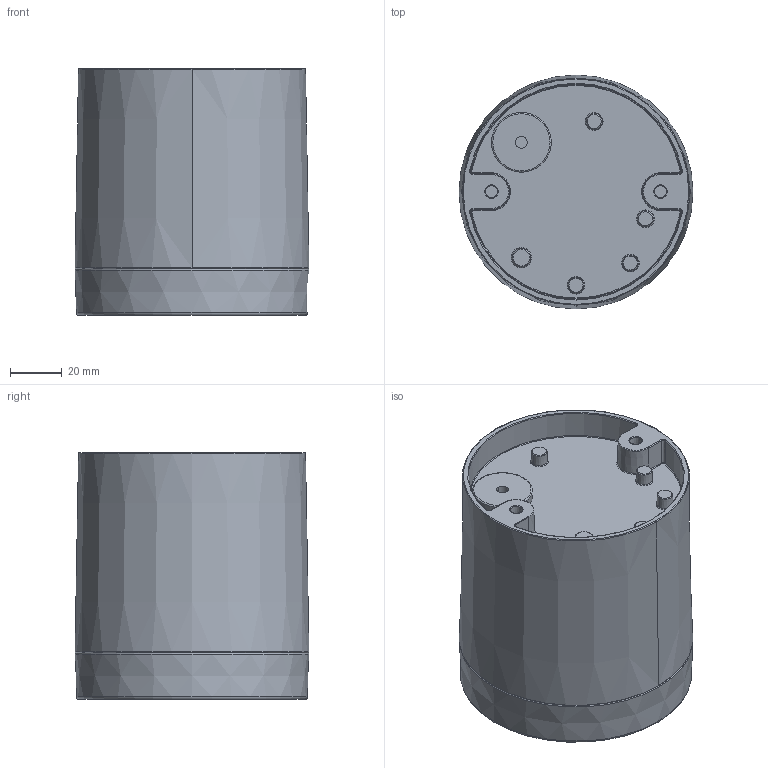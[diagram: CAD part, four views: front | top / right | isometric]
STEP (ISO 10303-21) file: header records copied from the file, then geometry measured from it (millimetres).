
FILE_DESCRIPTION (( 'STEP AP214' ), '1' );
FILE_NAME ('ARTIC-P2091080.STEP', '2026-01-13T07:17:33', ( '' ), ( '' ), 'SwSTEP 2.0', 'SolidWorks 2025', '' );
FILE_SCHEMA (( 'AUTOMOTIVE_DESIGN' ));
Length unit declared in the file: millimetre
Products named in the file (10): 00_3; 1000_1; 000-2_3; GU10_3; ARTIC-P2091080; 00-0_3; 000-1_3; GU1000_3; GU10_ASM; 000_3
Assembly tree (9 placements, depth 3):
  ARTIC-P2091080
    GU10_ASM
      GU1000_3
      GU10_3
    00_3
    000_3
    00-0_3
    000-1_3
    000-2_3
    1000_1
Bounding box: 89.99 x 89.99 x 95 mm (x, y, z)
Volume: 246014.2 mm3; surface area: 110460.2 mm2
Topology: 7 solids, 8 shells, 593 faces, 1312 edges, 769 vertices
Faces by surface type: cylinder 172, torus 147, plane 106, cone 76, bspline 71, sphere 21
Full cylindrical faces by diameter (mm): 73.8 x2
Entity records: 34933 total; most frequent: CARTESIAN_POINT 22002, DIRECTION 2841, ORIENTED_EDGE 2498, AXIS2_PLACEMENT_3D 1264, EDGE_CURVE 1249, VERTEX_POINT 747, CIRCLE 733, EDGE_LOOP 678
